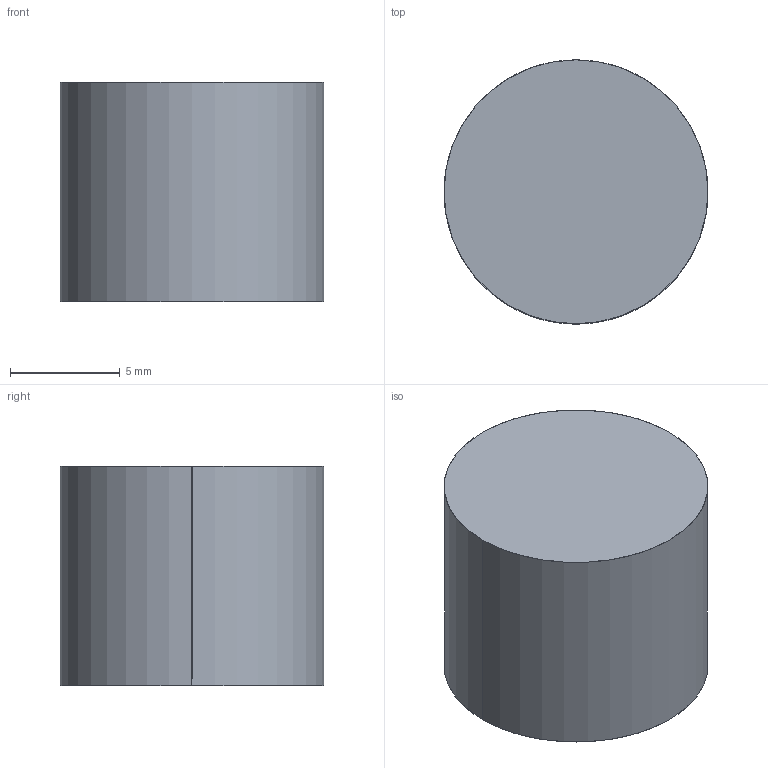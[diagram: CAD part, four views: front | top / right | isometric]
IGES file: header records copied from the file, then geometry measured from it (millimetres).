
Start section: SolidWorks IGES file using analytic representation for surfaces
Global section: file name: X:\11_SW2020-Inv2020\00_全2021-11新製品まで\d\DRP-120\drp-120.IGS; native system: SolidWorks 2020; preprocessor: SolidWorks 2020; author: ImaoCorp; date: 211021.165241; units: millimetre
Bounding box: 12 x 12 x 10 mm (x, y, z)
Surface area: 681.7 mm2 (no closed solid volume)
Topology: 0 solids, 0 shells, 7 faces, 144 edges, 144 vertices
Faces by surface type: revolution 4, bspline 3
